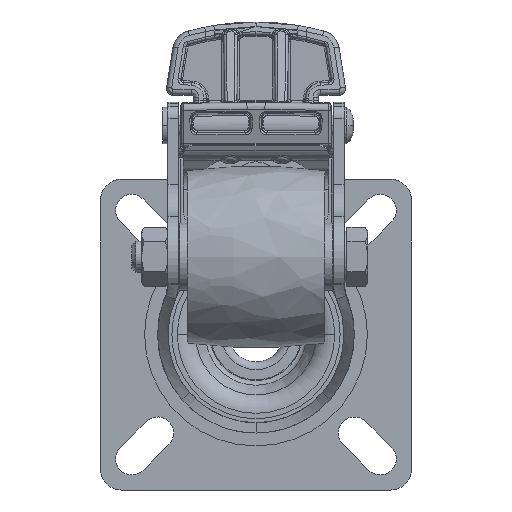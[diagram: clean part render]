
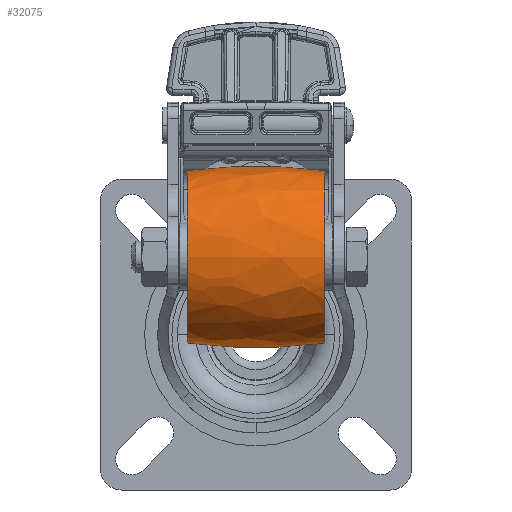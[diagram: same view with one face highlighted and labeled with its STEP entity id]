
A CAD part, front view. The second image highlights one B-rep face of the part: STEP entity #32075.
In plain terms, the highlighted free-form (B-spline) face has degree [3, 3] with [7, 4] control points.
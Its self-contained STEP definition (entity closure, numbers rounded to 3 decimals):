
#1286 = EDGE_CURVE ( 'NONE', #51563, #48162, #46364, .T. ) ;
#3301 = CARTESIAN_POINT ( 'NONE',  ( -4.622, 18.473, 9.826 ) ) ;
#3534 = CIRCLE ( 'NONE', #40887, 100. ) ;
#3966 = CARTESIAN_POINT ( 'NONE',  ( -4.622, -10.966, 17.82 ) ) ;
#4202 = CARTESIAN_POINT ( 'NONE',  ( 4.622, -17.785, -1.119 ) ) ;
#4205 = EDGE_CURVE ( 'NONE', #18699, #48162, #32835, .T. ) ;
#4632 = EDGE_CURVE ( 'NONE', #18375, #51563, #3534, .T. ) ;
#5377 = EDGE_CURVE ( 'NONE', #18375, #18699, #44134, .T. ) ;
#8996 = CARTESIAN_POINT ( 'NONE',  ( 13.777, -10.183, 16.546 ) ) ;
#9303 = CARTESIAN_POINT ( 'NONE',  ( 13.25, 0., 0. ) ) ;
#10009 = DIRECTION ( 'NONE',  ( 0.133, -0.991, 0. ) ) ;
#10839 = CARTESIAN_POINT ( 'NONE',  ( -13.25, -16.618, 0. ) ) ;
#12116 = DIRECTION ( 'NONE',  ( 0., -1., 0. ) ) ;
#13990 = CARTESIAN_POINT ( 'NONE',  ( 13.777, -16.514, -1.039 ) ) ;
#14215 = CARTESIAN_POINT ( 'NONE',  ( 13.777, 16.514, -1.039 ) ) ;
#14451 = CARTESIAN_POINT ( 'NONE',  ( -13.777, 17.153, 9.124 ) ) ;
#14640 = DIRECTION ( 'NONE',  ( 0.133, 0.991, 0. ) ) ;
#14661 = FACE_OUTER_BOUND ( 'NONE', #60411, .T. ) ;
#18375 = VERTEX_POINT ( 'NONE', #21780 ) ;
#18699 = VERTEX_POINT ( 'NONE', #60109 ) ;
#19439 = CARTESIAN_POINT ( 'NONE',  ( -13.777, 10.183, 16.546 ) ) ;
#19854 = CARTESIAN_POINT ( 'NONE',  ( 4.622, -18.473, 9.826 ) ) ;
#21780 = CARTESIAN_POINT ( 'NONE',  ( 13.25, -16.618, 0. ) ) ;
#22101 = DIRECTION ( 'NONE',  ( -1., 0., 0. ) ) ;
#23012 = CARTESIAN_POINT ( 'NONE',  ( -13.25, 16.618, 0. ) ) ;
#24178 = CARTESIAN_POINT ( 'NONE',  ( -4.622, 0., 17.82 ) ) ;
#24401 = CARTESIAN_POINT ( 'NONE',  ( -13.777, -17.153, 9.124 ) ) ;
#24638 = CARTESIAN_POINT ( 'NONE',  ( -13.777, -16.514, -1.039 ) ) ;
#24853 = CARTESIAN_POINT ( 'NONE',  ( 13.777, 10.183, 16.546 ) ) ;
#25259 = AXIS2_PLACEMENT_3D ( 'NONE', #9303, #64412, #52155 ) ;
#29627 = CARTESIAN_POINT ( 'NONE',  ( 13.777, -17.153, 9.124 ) ) ;
#32075 = ADVANCED_FACE ( 'NONE', ( #14661 ), #56259, .T. ) ;
#32835 = CIRCLE ( 'NONE', #63640, 100. ) ;
#34423 = CARTESIAN_POINT ( 'NONE',  ( 4.622, 18.473, 9.826 ) ) ;
#35315 = CARTESIAN_POINT ( 'NONE',  ( 4.622, -10.966, 17.82 ) ) ;
#38388 = ORIENTED_EDGE ( 'NONE', *, *, #1286, .F. ) ;
#40091 = CARTESIAN_POINT ( 'NONE',  ( -13.777, 16.514, -1.039 ) ) ;
#40541 = CARTESIAN_POINT ( 'NONE',  ( -4.622, 17.785, -1.119 ) ) ;
#40887 = AXIS2_PLACEMENT_3D ( 'NONE', #57389, #46410, #10009 ) ;
#42831 = ORIENTED_EDGE ( 'NONE', *, *, #4632, .F. ) ;
#44134 = CIRCLE ( 'NONE', #25259, 16.618 ) ;
#45136 = CARTESIAN_POINT ( 'NONE',  ( -4.622, 10.966, 17.82 ) ) ;
#45762 = CARTESIAN_POINT ( 'NONE',  ( 0., -82.5, 0. ) ) ;
#46364 = CIRCLE ( 'NONE', #47253, 16.618 ) ;
#46410 = DIRECTION ( 'NONE',  ( 0., 0., -1. ) ) ;
#47253 = AXIS2_PLACEMENT_3D ( 'NONE', #47406, #22101, #12116 ) ;
#47406 = CARTESIAN_POINT ( 'NONE',  ( -13.25, 0., 0. ) ) ;
#47692 = ORIENTED_EDGE ( 'NONE', *, *, #4205, .T. ) ;
#48162 = VERTEX_POINT ( 'NONE', #23012 ) ;
#50313 = DIRECTION ( 'NONE',  ( 0., 0., 1. ) ) ;
#50825 = CARTESIAN_POINT ( 'NONE',  ( 13.777, 0., 16.546 ) ) ;
#51056 = CARTESIAN_POINT ( 'NONE',  ( 4.622, 17.785, -1.119 ) ) ;
#51563 = VERTEX_POINT ( 'NONE', #10839 ) ;
#52155 = DIRECTION ( 'NONE',  ( 0., -1., 0. ) ) ;
#52495 = ORIENTED_EDGE ( 'NONE', *, *, #5377, .T. ) ;
#55411 = CARTESIAN_POINT ( 'NONE',  ( -13.777, 0., 16.546 ) ) ;
#55641 = CARTESIAN_POINT ( 'NONE',  ( 4.622, 10.966, 17.82 ) ) ;
#55863 = CARTESIAN_POINT ( 'NONE',  ( -4.622, -18.473, 9.826 ) ) ;
#56088 = CARTESIAN_POINT ( 'NONE',  ( 13.777, 17.153, 9.124 ) ) ;
#56259 =( BOUNDED_SURFACE ( )  B_SPLINE_SURFACE ( 3, 3, ( 
 ( #40091, #40541, #51056, #14215 ),
 ( #14451, #3301, #34423, #56088 ),
 ( #19439, #45136, #55641, #24853 ),
 ( #55411, #24178, #66661, #50825 ),
 ( #61390, #3966, #35315, #8996 ),
 ( #24401, #55863, #19854, #29627 ),
 ( #24638, #66189, #4202, #13990 ) ),
 .UNSPECIFIED., .F., .F., .T. ) 
 B_SPLINE_SURFACE_WITH_KNOTS ( ( 4, 3, 4 ),
 ( 4, 4 ),
 ( 0., 1., 2. ),
 ( 0., 1. ),
 .UNSPECIFIED. ) 
 GEOMETRIC_REPRESENTATION_ITEM ( )  RATIONAL_B_SPLINE_SURFACE ( (
 ( 1.193, 1.185, 1.185, 1.193),
 ( 0.942, 0.936, 0.936, 0.942),
 ( 0.942, 0.936, 0.936, 0.942),
 ( 1.193, 1.185, 1.185, 1.193),
 ( 0.942, 0.936, 0.936, 0.942),
 ( 0.942, 0.936, 0.936, 0.942),
 ( 1.193, 1.185, 1.185, 1.193) ) ) 
 REPRESENTATION_ITEM ( '' )  SURFACE ( )  );
#57389 = CARTESIAN_POINT ( 'NONE',  ( 0., 82.5, 0. ) ) ;
#60109 = CARTESIAN_POINT ( 'NONE',  ( 13.25, 16.618, 0. ) ) ;
#60411 = EDGE_LOOP ( 'NONE', ( #52495, #47692, #38388, #42831 ) ) ;
#61390 = CARTESIAN_POINT ( 'NONE',  ( -13.777, -10.183, 16.546 ) ) ;
#63640 = AXIS2_PLACEMENT_3D ( 'NONE', #45762, #50313, #14640 ) ;
#64412 = DIRECTION ( 'NONE',  ( -1., 0., 0. ) ) ;
#66189 = CARTESIAN_POINT ( 'NONE',  ( -4.622, -17.785, -1.119 ) ) ;
#66661 = CARTESIAN_POINT ( 'NONE',  ( 4.622, 0., 17.82 ) ) ;
